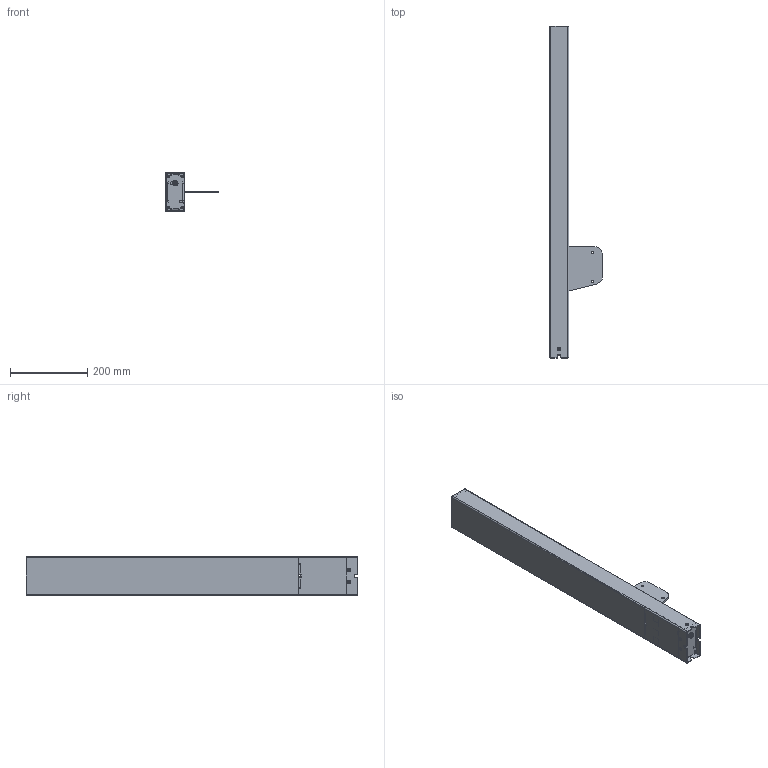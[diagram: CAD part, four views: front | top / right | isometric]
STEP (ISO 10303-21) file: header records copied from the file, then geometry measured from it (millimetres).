
FILE_DESCRIPTION (( 'STEP AP203' ), '1' );
FILE_NAME ('TL25.STEP', '2018-12-24T03:37:05', ( '' ), ( '' ), 'SwSTEP 2.0', 'SolidWorks 2015', '' );
FILE_SCHEMA (( 'CONFIG_CONTROL_DESIGN' ));
Length unit declared in the file: millimetre
Products named in the file (7): 三維零件圖-32309-1501-120-0; 三維零件圖-32906-408-固定板-1; 三維零件圖-32905-548-固定蓋-0; 三維零件圖-33903-378-10-特製螺絲; 三維零件圖-32309-0605-860-外層管烤漆-0; 三維零件圖-33903-064-12-公制螺絲; TL25
Assembly tree (11 placements, depth 2):
  TL25
    三維零件圖-32309-1501-120-0
    三維零件圖-32309-0605-860-外層管烤漆-0
    三維零件圖-32906-408-固定板-1
    三維零件圖-33903-378-10-特製螺絲
    三維零件圖-33903-064-12-公制螺絲  x6
    三維零件圖-32905-548-固定蓋-0
Bounding box: 137 x 860 x 100 mm (x, y, z)
Volume: 636809.8 mm3; surface area: 600598 mm2
Topology: 13 solids, 13 shells, 908 faces, 2536 edges, 1670 vertices
Faces by surface type: cylinder 467, plane 365, cone 42, torus 22, bspline 12
Entity records: 22253 total; most frequent: CARTESIAN_POINT 5901, ORIENTED_EDGE 3272, DIRECTION 3206, EDGE_CURVE 1636, VERTEX_POINT 1075, AXIS2_PLACEMENT_3D 1075, VECTOR 1056, LINE 1056
